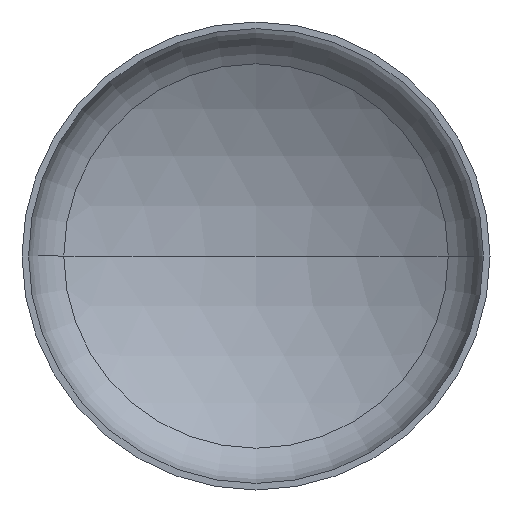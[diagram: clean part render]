
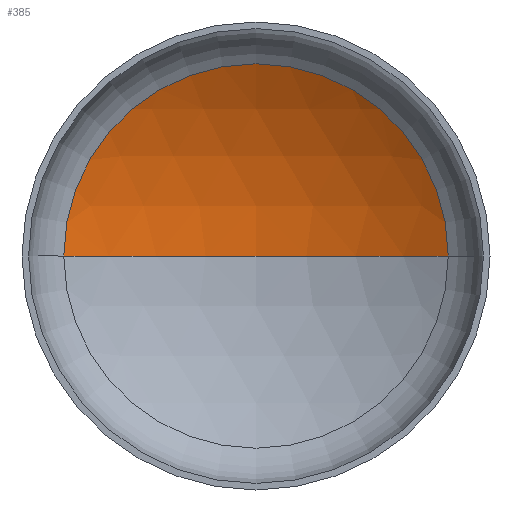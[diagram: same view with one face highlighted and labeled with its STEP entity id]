
A CAD part, front view. The second image highlights one B-rep face of the part: STEP entity #385.
In plain terms, the highlighted spherical face has radius 1760 mm.
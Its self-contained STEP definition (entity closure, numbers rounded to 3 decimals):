
#6 = DIRECTION ( 'NONE',  ( -1., 0., 0. ) ) ;
#9 = AXIS2_PLACEMENT_3D ( 'NONE', #78, #255, #132 ) ;
#16 = ORIENTED_EDGE ( 'NONE', *, *, #77, .T. ) ;
#30 = EDGE_LOOP ( 'NONE', ( #99, #16, #58 ) ) ;
#34 = AXIS2_PLACEMENT_3D ( 'NONE', #83, #295, #6 ) ;
#35 = AXIS2_PLACEMENT_3D ( 'NONE', #209, #190, #193 ) ;
#44 = VERTEX_POINT ( 'NONE', #254 ) ;
#58 = ORIENTED_EDGE ( 'NONE', *, *, #76, .T. ) ;
#76 = EDGE_CURVE ( 'NONE', #182, #174, #275, .T. ) ;
#77 = EDGE_CURVE ( 'NONE', #44, #182, #120, .T. ) ;
#78 = CARTESIAN_POINT ( 'NONE',  ( 0., -1118.589, 0. ) ) ;
#83 = CARTESIAN_POINT ( 'NONE',  ( 0., -1118.589, 0. ) ) ;
#87 = DIRECTION ( 'NONE',  ( -1., 0., 0. ) ) ;
#96 = CARTESIAN_POINT ( 'NONE',  ( 0., -1118.589, 0. ) ) ;
#99 = ORIENTED_EDGE ( 'NONE', *, *, #345, .F. ) ;
#120 = CIRCLE ( 'NONE', #34, 1760. ) ;
#132 = DIRECTION ( 'NONE',  ( 1., 0., 0. ) ) ;
#170 = CIRCLE ( 'NONE', #9, 1760. ) ;
#174 = VERTEX_POINT ( 'NONE', #213 ) ;
#182 = VERTEX_POINT ( 'NONE', #214 ) ;
#190 = DIRECTION ( 'NONE',  ( 0., -1., 0. ) ) ;
#191 = AXIS2_PLACEMENT_3D ( 'NONE', #96, #279, #87 ) ;
#193 = DIRECTION ( 'NONE',  ( 1., 0., 0. ) ) ;
#209 = CARTESIAN_POINT ( 'NONE',  ( 0., 391.775, 0. ) ) ;
#213 = CARTESIAN_POINT ( 'NONE',  ( -903.549, 391.775, 0. ) ) ;
#214 = CARTESIAN_POINT ( 'NONE',  ( 903.549, 391.775, 0. ) ) ;
#221 = SPHERICAL_SURFACE ( 'NONE', #191, 1760. ) ;
#254 = CARTESIAN_POINT ( 'NONE',  ( 0., 641.411, 0. ) ) ;
#255 = DIRECTION ( 'NONE',  ( 0., 0., 1. ) ) ;
#275 = CIRCLE ( 'NONE', #35, 903.549 ) ;
#279 = DIRECTION ( 'NONE',  ( 0., 0., -1. ) ) ;
#295 = DIRECTION ( 'NONE',  ( 0., 0., -1. ) ) ;
#335 = FACE_OUTER_BOUND ( 'NONE', #30, .T. ) ;
#345 = EDGE_CURVE ( 'NONE', #44, #174, #170, .T. ) ;
#385 = ADVANCED_FACE ( 'NONE', ( #335 ), #221, .F. ) ;
